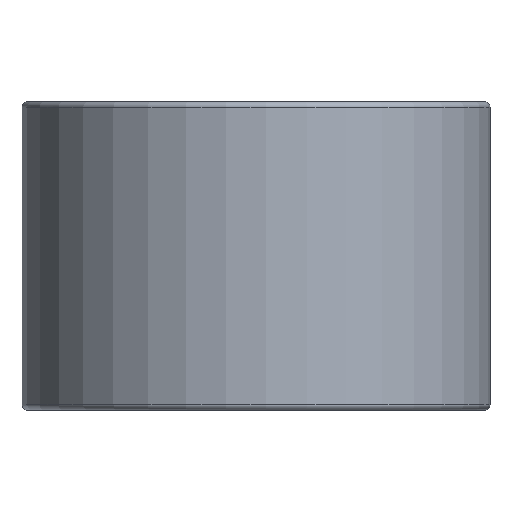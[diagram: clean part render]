
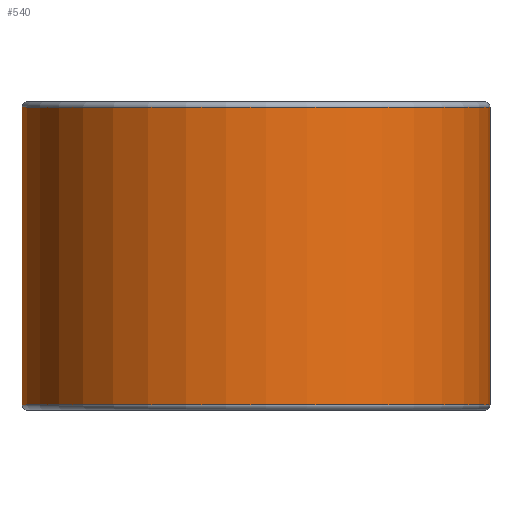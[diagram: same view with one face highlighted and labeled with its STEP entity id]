
A CAD part, front view. The second image highlights one B-rep face of the part: STEP entity #540.
In plain terms, the highlighted cylindrical face has radius 20.5 mm (diameter 41 mm), a full revolution.
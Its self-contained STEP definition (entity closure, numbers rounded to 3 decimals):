
#540=ADVANCED_FACE('',(#641,#642),#610,.T.);
#610=CYLINDRICAL_SURFACE('',#1375,20.5);
#641=FACE_BOUND('',#713,.T.);
#642=FACE_BOUND('',#714,.T.);
#713=EDGE_LOOP('',(#825));
#714=EDGE_LOOP('',(#826));
#825=ORIENTED_EDGE('',*,*,#1173,.T.);
#826=ORIENTED_EDGE('',*,*,#1174,.T.);
#1077=VERTEX_POINT('',#1865);
#1078=VERTEX_POINT('',#1867);
#1173=EDGE_CURVE('',#1077,#1077,#1301,.T.);
#1174=EDGE_CURVE('',#1078,#1078,#1302,.T.);
#1301=CIRCLE('',#1373,20.5);
#1302=CIRCLE('',#1374,20.5);
#1373=AXIS2_PLACEMENT_3D('',#1864,#1530,#1531);
#1374=AXIS2_PLACEMENT_3D('',#1866,#1532,#1533);
#1375=AXIS2_PLACEMENT_3D('',#1868,#1534,#1535);
#1530=DIRECTION('',(0.,0.,-1.));
#1531=DIRECTION('',(1.,0.,0.));
#1532=DIRECTION('',(0.,0.,1.));
#1533=DIRECTION('',(1.,0.,0.));
#1534=DIRECTION('',(0.,0.,-1.));
#1535=DIRECTION('',(-1.,0.,0.));
#1864=CARTESIAN_POINT('',(0.,0.,26.5));
#1865=CARTESIAN_POINT('',(20.5,0.,26.5));
#1866=CARTESIAN_POINT('',(0.,0.,0.5));
#1867=CARTESIAN_POINT('',(20.5,0.,0.5));
#1868=CARTESIAN_POINT('',(0.,0.,27.));
